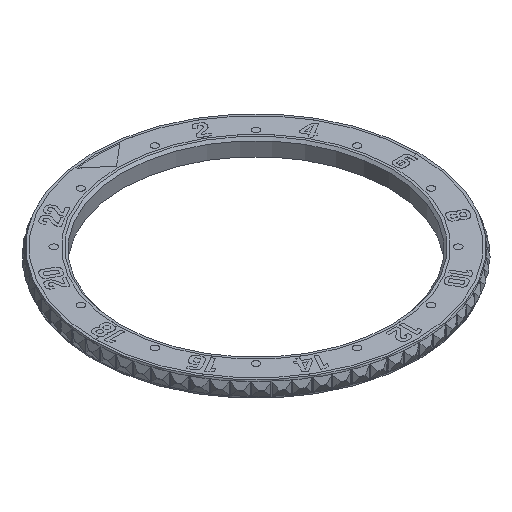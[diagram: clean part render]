
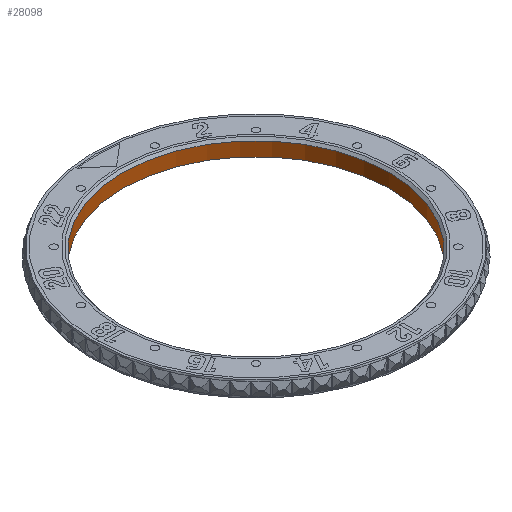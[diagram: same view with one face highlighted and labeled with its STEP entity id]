
A CAD part, isometric view. The second image highlights one B-rep face of the part: STEP entity #28098.
In plain terms, the highlighted cylindrical face has radius 57.995 mm (diameter 115.991 mm), a full revolution.
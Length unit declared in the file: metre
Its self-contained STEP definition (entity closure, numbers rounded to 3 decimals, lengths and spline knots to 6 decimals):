
#7737=CYLINDRICAL_SURFACE('',#30227,0.057996);
#7791=ORIENTED_EDGE('',*,*,#16297,.T.);
#7792=ORIENTED_EDGE('',*,*,#16296,.F.);
#16296=EDGE_CURVE('',#20549,#20549,#23406,.T.);
#16297=EDGE_CURVE('',#20550,#20550,#23407,.T.);
#20549=VERTEX_POINT('',#37255);
#20550=VERTEX_POINT('',#37258);
#23406=CIRCLE('',#30226,0.057996);
#23407=CIRCLE('',#30228,0.057996);
#23510=EDGE_LOOP('',(#7791));
#23511=EDGE_LOOP('',(#7792));
#25298=FACE_BOUND('',#23510,.T.);
#25299=FACE_BOUND('',#23511,.T.);
#28098=ADVANCED_FACE('',(#25298,#25299),#7737,.F.);
#30226=AXIS2_PLACEMENT_3D('',#37254,#31591,#31592);
#30227=AXIS2_PLACEMENT_3D('',#37256,#31593,#31594);
#30228=AXIS2_PLACEMENT_3D('',#37257,#31595,#31596);
#31591=DIRECTION('',(0.,0.,1.));
#31592=DIRECTION('',(1.,0.,0.));
#31593=DIRECTION('',(0.,0.,1.));
#31594=DIRECTION('',(1.,0.,0.));
#31595=DIRECTION('',(0.,0.,1.));
#31596=DIRECTION('',(1.,0.,0.));
#37254=CARTESIAN_POINT('',(0.,0.,0.029));
#37255=CARTESIAN_POINT('',(0.057996,0.,0.029));
#37256=CARTESIAN_POINT('',(0.,0.,0.029));
#37257=CARTESIAN_POINT('',(0.,0.,0.035));
#37258=CARTESIAN_POINT('',(0.057996,0.,0.035));
